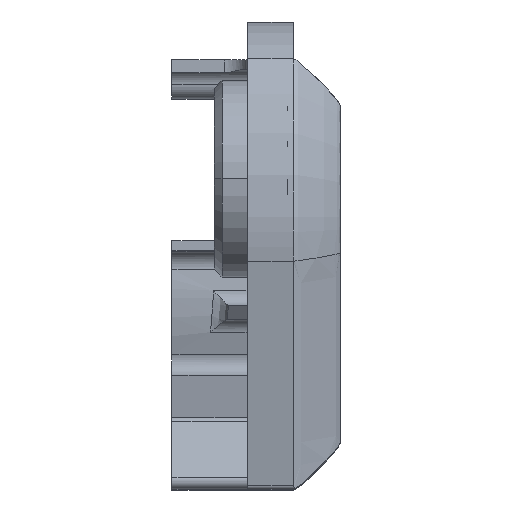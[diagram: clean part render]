
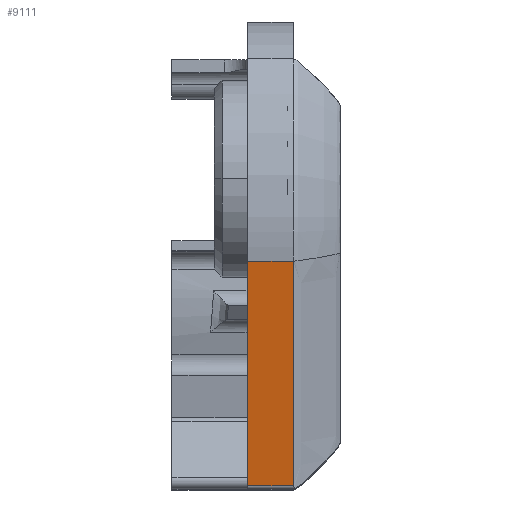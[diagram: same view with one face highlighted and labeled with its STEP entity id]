
A CAD part, top view. The second image highlights one B-rep face of the part: STEP entity #9111.
In plain terms, the highlighted planar face has unit normal (0, -0.174, 0.985).
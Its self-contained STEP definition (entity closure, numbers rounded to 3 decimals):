
#1490=DIRECTION('',(0.,-0.985,-0.174));
#1491=VECTOR('',#1490,58.023);
#1492=CARTESIAN_POINT('',(-97.5,-4.032,-391.279));
#1493=LINE('',#1492,#1491);
#1910=DIRECTION('',(-1.,0.,0.));
#1911=VECTOR('',#1910,11.621);
#1912=CARTESIAN_POINT('',(-85.879,-4.032,
-391.279));
#1913=LINE('',#1912,#1911);
#1925=DIRECTION('',(0.,0.985,0.174));
#1926=VECTOR('',#1925,58.023);
#1927=CARTESIAN_POINT('',(-85.879,-61.174,
-401.354));
#1928=LINE('',#1927,#1926);
#2057=DIRECTION('',(1.,0.,0.));
#2058=VECTOR('',#2057,11.621);
#2059=CARTESIAN_POINT('',(-97.5,-61.174,-401.354));
#2060=LINE('',#2059,#2058);
#6578=CARTESIAN_POINT('',(-97.5,-4.032,-391.279));
#6580=VERTEX_POINT('',#6578);
#6581=CARTESIAN_POINT('',(-97.5,-61.174,-401.354));
#6582=VERTEX_POINT('',#6581);
#6772=CARTESIAN_POINT('',(-85.879,-4.032,
-391.279));
#6773=VERTEX_POINT('',#6772);
#6776=CARTESIAN_POINT('',(-85.879,-61.174,
-401.354));
#6777=VERTEX_POINT('',#6776);
#9098=CARTESIAN_POINT('',(1181.197,-33.016,
-396.389));
#9099=DIRECTION('',(0.,0.174,-0.985));
#9100=DIRECTION('',(0.,0.985,0.174));
#9101=AXIS2_PLACEMENT_3D('',#9098,#9099,#9100);
#9102=PLANE('',#9101);
#9104=ORIENTED_EDGE('',*,*,#9103,.F.);
#9106=ORIENTED_EDGE('',*,*,#9105,.F.);
#9107=ORIENTED_EDGE('',*,*,#8790,.F.);
#9108=ORIENTED_EDGE('',*,*,#9086,.F.);
#9109=EDGE_LOOP('',(#9104,#9106,#9107,#9108));
#9110=FACE_OUTER_BOUND('',#9109,.F.);
#9111=ADVANCED_FACE('',(#9110),#9102,.F.);
#8790=EDGE_CURVE('',#6580,#6582,#1493,.T.);
#9086=EDGE_CURVE('',#6773,#6580,#1913,.T.);
#9103=EDGE_CURVE('',#6777,#6773,#1928,.T.);
#9105=EDGE_CURVE('',#6582,#6777,#2060,.T.);
